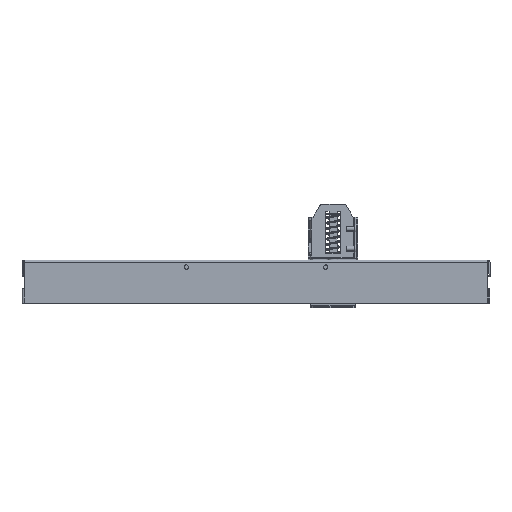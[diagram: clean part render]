
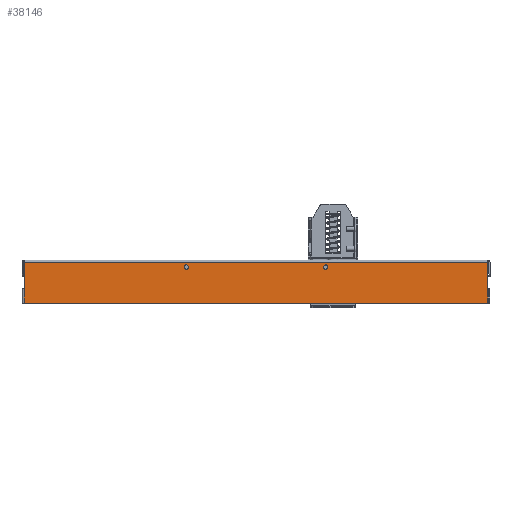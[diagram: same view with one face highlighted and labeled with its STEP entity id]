
A CAD part, front view. The second image highlights one B-rep face of the part: STEP entity #38146.
In plain terms, the highlighted planar face has unit normal (0, -1, 0).
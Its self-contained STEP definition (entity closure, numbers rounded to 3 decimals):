
#34776=CARTESIAN_POINT(' ',(-232.793,-132.5,-2.1));
#34777=VERTEX_POINT(' ',#34776);
#34791=CARTESIAN_POINT(' ',(232.793,-132.5,-2.1));
#34796=DIRECTION(' ',(-1.,0.,0.));
#34801=VECTOR(' ',#34796,1.);
#34806=LINE('',#34791,#34801);
#34811=CARTESIAN_POINT(' ',(232.793,-132.5,-2.1));
#34812=VERTEX_POINT(' ',#34811);
#34816=EDGE_CURVE(' ',#34812,#34777,#34806,.T.);
#37756=DIRECTION(' ',(0.,-1.,0.));
#37761=CARTESIAN_POINT(' ',(-232.793,-132.5,-2.1));
#37766=DIRECTION(' ',(0.,0.,-1.));
#37771=AXIS2_PLACEMENT_3D(' ',#37761,#37756,#37766);
#37776=PLANE('NONE',#37771);
#37781=CARTESIAN_POINT(' ',(-232.793,-132.5,-43.5));
#37786=DIRECTION(' ',(0.,0.,1.));
#37791=VECTOR(' ',#37786,1.);
#37796=LINE('',#37781,#37791);
#37801=CARTESIAN_POINT(' ',(-232.793,-132.5,-43.5));
#37802=VERTEX_POINT(' ',#37801);
#37806=CARTESIAN_POINT(' ',(-232.793,-132.5,-28.5));
#37807=VERTEX_POINT(' ',#37806);
#37811=EDGE_CURVE(' ',#37802,#37807,#37796,.T.);
#37816=ORIENTED_EDGE(' ',*,*,#37811,.F.);
#37821=CARTESIAN_POINT(' ',(232.793,-132.5,-43.5));
#37826=DIRECTION(' ',(-1.,0.,0.));
#37831=VECTOR(' ',#37826,1.);
#37836=LINE('',#37821,#37831);
#37841=CARTESIAN_POINT(' ',(232.793,-132.5,-43.5));
#37842=VERTEX_POINT(' ',#37841);
#37846=EDGE_CURVE(' ',#37842,#37802,#37836,.T.);
#37851=ORIENTED_EDGE(' ',*,*,#37846,.F.);
#37856=CARTESIAN_POINT(' ',(232.793,-132.5,-43.5));
#37861=DIRECTION(' ',(0.,0.,1.));
#37866=VECTOR(' ',#37861,1.);
#37871=LINE('',#37856,#37866);
#37876=CARTESIAN_POINT(' ',(232.793,-132.5,-28.5));
#37877=VERTEX_POINT(' ',#37876);
#37881=EDGE_CURVE(' ',#37842,#37877,#37871,.T.);
#37886=ORIENTED_EDGE(' ',*,*,#37881,.T.);
#37891=CARTESIAN_POINT(' ',(232.793,-132.5,-28.5));
#37896=DIRECTION(' ',(0.,0.,1.));
#37901=VECTOR(' ',#37896,1.);
#37906=LINE('',#37891,#37901);
#37911=EDGE_CURVE(' ',#37877,#34812,#37906,.T.);
#37916=ORIENTED_EDGE(' ',*,*,#37911,.T.);
#37921=ORIENTED_EDGE(' ',*,*,#34816,.T.);
#37926=CARTESIAN_POINT(' ',(-232.793,-132.5,-28.5));
#37931=DIRECTION(' ',(0.,0.,1.));
#37936=VECTOR(' ',#37931,1.);
#37941=LINE('',#37926,#37936);
#37946=EDGE_CURVE(' ',#37807,#34777,#37941,.T.);
#37951=ORIENTED_EDGE(' ',*,*,#37946,.F.);
#37956=EDGE_LOOP(' ',(#37816,#37851,#37886,#37916,#37921,#37951));
#37961=FACE_OUTER_BOUND(' ',#37956,.T.);
#37966=CARTESIAN_POINT(' ',(70.,-132.5,-7.));
#37971=DIRECTION(' ',(-0.,-1.,0.));
#37976=DIRECTION(' ',(0.,0.,-1.));
#37981=AXIS2_PLACEMENT_3D(' ',#37966,#37971,#37976);
#37986=CIRCLE('',#37981,2.1);
#37991=CARTESIAN_POINT(' ',(70.,-132.5,-9.1));
#37992=VERTEX_POINT(' ',#37991);
#37996=CARTESIAN_POINT(' ',(70.,-132.5,-4.9));
#37997=VERTEX_POINT(' ',#37996);
#38001=EDGE_CURVE(' ',#37992,#37997,#37986,.T.);
#38006=ORIENTED_EDGE(' ',*,*,#38001,.F.);
#38011=CARTESIAN_POINT(' ',(70.,-132.5,-7.));
#38016=DIRECTION(' ',(0.,-1.,0.));
#38021=DIRECTION(' ',(0.,0.,1.));
#38026=AXIS2_PLACEMENT_3D(' ',#38011,#38016,#38021);
#38031=CIRCLE('',#38026,2.1);
#38036=EDGE_CURVE(' ',#37997,#37992,#38031,.T.);
#38041=ORIENTED_EDGE(' ',*,*,#38036,.F.);
#38046=EDGE_LOOP(' ',(#38006,#38041));
#38051=FACE_BOUND(' ',#38046,.T.);
#38056=CARTESIAN_POINT(' ',(-70.,-132.5,-7.));
#38061=DIRECTION(' ',(-0.,-1.,0.));
#38066=DIRECTION(' ',(0.,0.,-1.));
#38071=AXIS2_PLACEMENT_3D(' ',#38056,#38061,#38066);
#38076=CIRCLE('',#38071,2.1);
#38081=CARTESIAN_POINT(' ',(-70.,-132.5,-9.1));
#38082=VERTEX_POINT(' ',#38081);
#38086=CARTESIAN_POINT(' ',(-70.,-132.5,-4.9));
#38087=VERTEX_POINT(' ',#38086);
#38091=EDGE_CURVE(' ',#38082,#38087,#38076,.T.);
#38096=ORIENTED_EDGE(' ',*,*,#38091,.F.);
#38101=CARTESIAN_POINT(' ',(-70.,-132.5,-7.));
#38106=DIRECTION(' ',(0.,-1.,0.));
#38111=DIRECTION(' ',(0.,0.,1.));
#38116=AXIS2_PLACEMENT_3D(' ',#38101,#38106,#38111);
#38121=CIRCLE('',#38116,2.1);
#38126=EDGE_CURVE(' ',#38087,#38082,#38121,.T.);
#38131=ORIENTED_EDGE(' ',*,*,#38126,.F.);
#38136=EDGE_LOOP(' ',(#38096,#38131));
#38141=FACE_BOUND(' ',#38136,.T.);
#38146=ADVANCED_FACE('NONE',(#37961,#38051,#38141),#37776,.T.);
